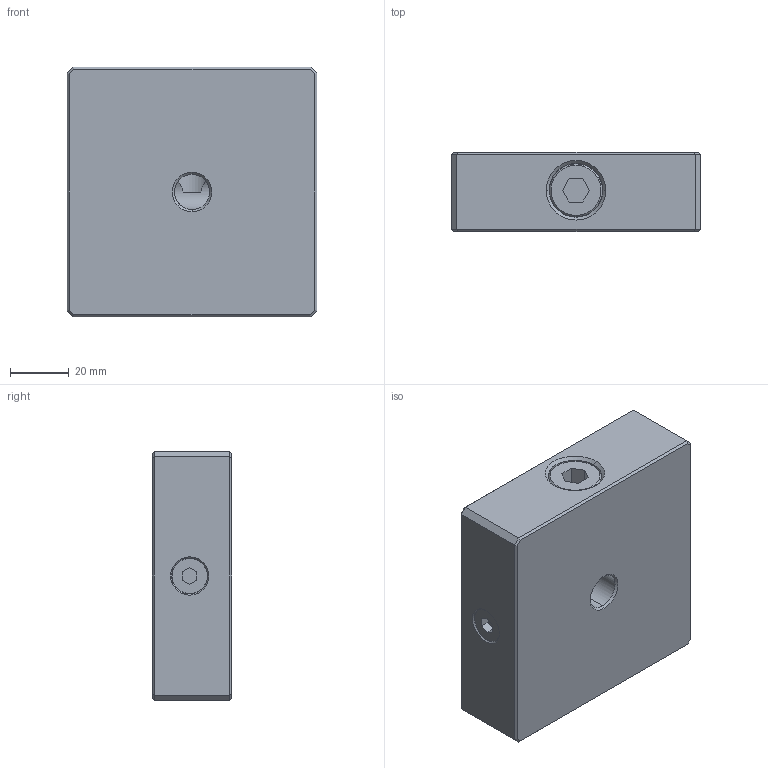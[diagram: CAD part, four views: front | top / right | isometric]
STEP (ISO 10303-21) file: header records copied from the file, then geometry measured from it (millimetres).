
FILE_DESCRIPTION (( 'STEP AP214' ), '1' );
FILE_NAME ('45602.STEP', '2023-07-27T09:22:33', ( '' ), ( '' ), 'SwSTEP 2.0', 'SolidWorks 2021', '' );
FILE_SCHEMA (( 'AUTOMOTIVE_DESIGN' ));
Length unit declared in the file: millimetre
Products named in the file (1): 45602
Bounding box: 85 x 27 x 85 mm (x, y, z)
Volume: 177464.6 mm3; surface area: 31596.9 mm2
Topology: 4 solids, 4 shells, 112 faces, 252 edges, 154 vertices
Faces by surface type: plane 60, cylinder 28, cone 20, torus 4
Entity records: 4814 total; most frequent: CARTESIAN_POINT 985, DIRECTION 533, ORIENTED_EDGE 504, EDGE_CURVE 252, AXIS2_PLACEMENT_3D 186, VECTOR 161, LINE 161, VERTEX_POINT 154
